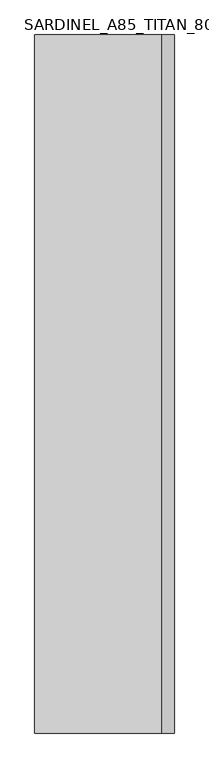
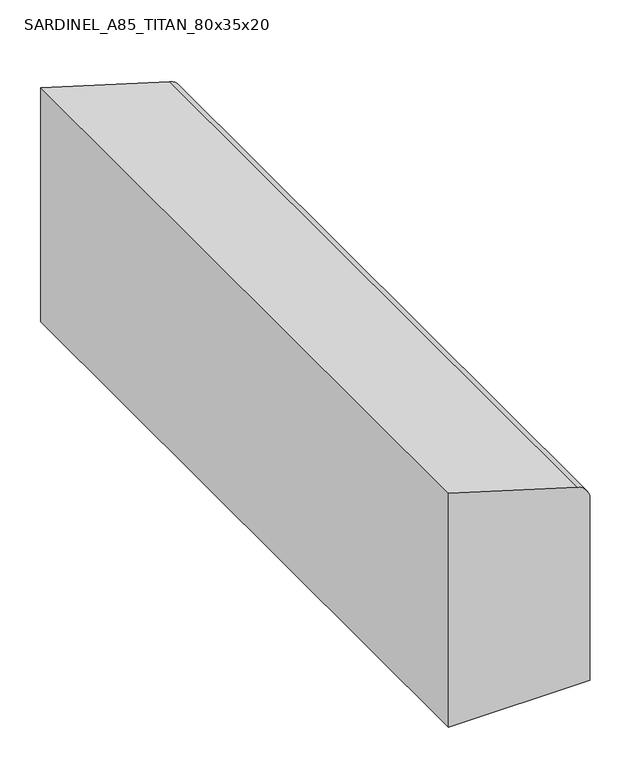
"""IFC4 building model written with IfcOpenShell, lengths in millimetres: railing geometry, SARDINEL_A85_TITAN_80x35x20."""

from ifc_helpers import new_model, si_unit, point, frame, frame_2d, origin, place, context, project, spatial, polyline, circle_curve, trimmed, segment, composite_curve, outline, extrude, source, transform, mapped, element, save


def sardinel_a85_titan_80x35x20_d4344859(model_context):
    return source(origin(), model_context, "Body", "SweptSolid", [
        extrude(outline(composite_curve([segment(polyline([(0.0, -2563.993975), (271.3992337, -2563.993975)]), True, "CONTINUOUS"), segment(trimmed(circle_curve(frame_2d((271.3992337, -2588.993975)), 25.0), [point((271.3992337, -2563.993975))], [point((295.3448909, -2581.8102778))], False, "CARTESIAN"), True, "CONTINUOUS"), segment(polyline([(295.3448909, -2581.8102778), (350.0, -2763.993975), (0.0, -2763.993975), (0.0, -2563.993975)]), True, "CONTINUOUS")], self_intersect=False)), frame((0.0, 156.2300366, 0.0), z_axis=(0.0, 1.0, 0.0), x_axis=(0.0, 0.0, 1.0)), (0.0, 0.0, 1.0), 1000.0),
    ])


if __name__ == "__main__":
    model = new_model("IFC4")
    model_context = context("Model", 3, world=origin())
    ifc_project = project(units=[si_unit("LENGTHUNIT", "METRE", prefix="MILLI")], contexts=[model_context])
    site = spatial("IfcSite", under=ifc_project)
    building = spatial("IfcBuilding", under=site)
    placement = place(None, origin())
    sardinel_a85_titan_80x35x20_shape = sardinel_a85_titan_80x35x20_d4344859(model_context)
    element("IfcRailing", 1, ObjectType="SARDINEL_A85_TITAN_80x35x20", at=placement, inside=building, context=model_context, shape_type="MappedRepresentation", body=[
        mapped(sardinel_a85_titan_80x35x20_shape, transform((0.0, 0.0, 0.0), x_axis=(1.0, 0.0, 0.0), y_axis=(0.0, 1.0, 0.0), z_axis=(0.0, 0.0, 1.0))),
    ])
    save(model, "model.ifc")
